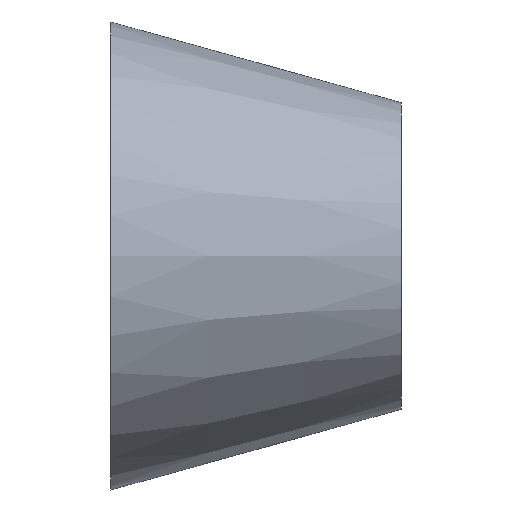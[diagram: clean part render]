
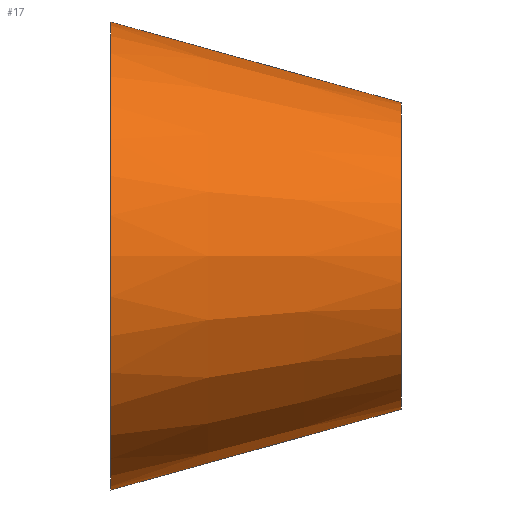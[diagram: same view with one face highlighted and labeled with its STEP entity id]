
A CAD part, front view. The second image highlights one B-rep face of the part: STEP entity #17.
In plain terms, the highlighted conical face has half-angle 15.524 degrees and reference radius 14.5 mm.
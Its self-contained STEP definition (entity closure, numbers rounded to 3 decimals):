
#17 = ADVANCED_FACE('',(#18),#31,.T.);
#18 = FACE_BOUND('',#19,.T.);
#19 = EDGE_LOOP('',(#20,#54,#74,#101));
#20 = ORIENTED_EDGE('',*,*,#21,.T.);
#21 = EDGE_CURVE('',#22,#22,#24,.T.);
#22 = VERTEX_POINT('',#23);
#23 = CARTESIAN_POINT('',(0.,14.5,0.));
#24 = SURFACE_CURVE('',#25,(#30,#42),.PCURVE_S1.);
#25 = CIRCLE('',#26,14.5);
#26 = AXIS2_PLACEMENT_3D('',#27,#28,#29);
#27 = CARTESIAN_POINT('',(0.,0.,0.));
#28 = DIRECTION('',(1.,0.,0.));
#29 = DIRECTION('',(0.,1.,0.));
#30 = PCURVE('',#31,#36);
#31 = CONICAL_SURFACE('',#32,14.5,0.271);
#32 = AXIS2_PLACEMENT_3D('',#33,#34,#35);
#33 = CARTESIAN_POINT('',(0.,0.,0.));
#34 = DIRECTION('',(-1.,-0.,-0.));
#35 = DIRECTION('',(0.,1.,0.));
#36 = DEFINITIONAL_REPRESENTATION('',(#37),#41);
#37 = LINE('',#38,#39);
#38 = CARTESIAN_POINT('',(-0.,-0.));
#39 = VECTOR('',#40,1.);
#40 = DIRECTION('',(-1.,-0.));
#41 = ( GEOMETRIC_REPRESENTATION_CONTEXT(2) 
PARAMETRIC_REPRESENTATION_CONTEXT() REPRESENTATION_CONTEXT('2D SPACE',''
  ) );
#42 = PCURVE('',#43,#48);
#43 = PLANE('',#44);
#44 = AXIS2_PLACEMENT_3D('',#45,#46,#47);
#45 = CARTESIAN_POINT('',(0.,0.,0.));
#46 = DIRECTION('',(1.,0.,0.));
#47 = DIRECTION('',(0.,1.,0.));
#48 = DEFINITIONAL_REPRESENTATION('',(#49),#53);
#49 = CIRCLE('',#50,14.5);
#50 = AXIS2_PLACEMENT_2D('',#51,#52);
#51 = CARTESIAN_POINT('',(0.,0.));
#52 = DIRECTION('',(1.,0.));
#53 = ( GEOMETRIC_REPRESENTATION_CONTEXT(2) 
PARAMETRIC_REPRESENTATION_CONTEXT() REPRESENTATION_CONTEXT('2D SPACE',''
  ) );
#54 = ORIENTED_EDGE('',*,*,#55,.T.);
#55 = EDGE_CURVE('',#22,#56,#58,.T.);
#56 = VERTEX_POINT('',#57);
#57 = CARTESIAN_POINT('',(18.,9.5,0.));
#58 = SEAM_CURVE('',#59,(#62,#68),.PCURVE_S1.);
#59 = B_SPLINE_CURVE_WITH_KNOTS('',1,(#60,#61),.UNSPECIFIED.,.F.,.F.,(2,
    2),(0.,1.),.PIECEWISE_BEZIER_KNOTS.);
#60 = CARTESIAN_POINT('',(0.,14.5,0.));
#61 = CARTESIAN_POINT('',(18.,9.5,0.));
#62 = PCURVE('',#31,#63);
#63 = DEFINITIONAL_REPRESENTATION('',(#64),#67);
#64 = B_SPLINE_CURVE_WITH_KNOTS('',1,(#65,#66),.UNSPECIFIED.,.F.,.F.,(2,
    2),(0.,1.),.PIECEWISE_BEZIER_KNOTS.);
#65 = CARTESIAN_POINT('',(-6.283,0.));
#66 = CARTESIAN_POINT('',(-6.283,-18.));
#67 = ( GEOMETRIC_REPRESENTATION_CONTEXT(2) 
PARAMETRIC_REPRESENTATION_CONTEXT() REPRESENTATION_CONTEXT('2D SPACE',''
  ) );
#68 = PCURVE('',#31,#69);
#69 = DEFINITIONAL_REPRESENTATION('',(#70),#73);
#70 = B_SPLINE_CURVE_WITH_KNOTS('',1,(#71,#72),.UNSPECIFIED.,.F.,.F.,(2,
    2),(0.,1.),.PIECEWISE_BEZIER_KNOTS.);
#71 = CARTESIAN_POINT('',(0.,0.));
#72 = CARTESIAN_POINT('',(0.,-18.));
#73 = ( GEOMETRIC_REPRESENTATION_CONTEXT(2) 
PARAMETRIC_REPRESENTATION_CONTEXT() REPRESENTATION_CONTEXT('2D SPACE',''
  ) );
#74 = ORIENTED_EDGE('',*,*,#75,.F.);
#75 = EDGE_CURVE('',#56,#56,#76,.T.);
#76 = SURFACE_CURVE('',#77,(#82,#89),.PCURVE_S1.);
#77 = CIRCLE('',#78,9.5);
#78 = AXIS2_PLACEMENT_3D('',#79,#80,#81);
#79 = CARTESIAN_POINT('',(18.,0.,0.));
#80 = DIRECTION('',(1.,0.,0.));
#81 = DIRECTION('',(0.,1.,0.));
#82 = PCURVE('',#31,#83);
#83 = DEFINITIONAL_REPRESENTATION('',(#84),#88);
#84 = LINE('',#85,#86);
#85 = CARTESIAN_POINT('',(-0.,-18.));
#86 = VECTOR('',#87,1.);
#87 = DIRECTION('',(-1.,-0.));
#88 = ( GEOMETRIC_REPRESENTATION_CONTEXT(2) 
PARAMETRIC_REPRESENTATION_CONTEXT() REPRESENTATION_CONTEXT('2D SPACE',''
  ) );
#89 = PCURVE('',#90,#95);
#90 = PLANE('',#91);
#91 = AXIS2_PLACEMENT_3D('',#92,#93,#94);
#92 = CARTESIAN_POINT('',(18.,0.,0.));
#93 = DIRECTION('',(1.,0.,0.));
#94 = DIRECTION('',(0.,1.,0.));
#95 = DEFINITIONAL_REPRESENTATION('',(#96),#100);
#96 = CIRCLE('',#97,9.5);
#97 = AXIS2_PLACEMENT_2D('',#98,#99);
#98 = CARTESIAN_POINT('',(0.,0.));
#99 = DIRECTION('',(1.,0.));
#100 = ( GEOMETRIC_REPRESENTATION_CONTEXT(2) 
PARAMETRIC_REPRESENTATION_CONTEXT() REPRESENTATION_CONTEXT('2D SPACE',''
  ) );
#101 = ORIENTED_EDGE('',*,*,#55,.F.);
